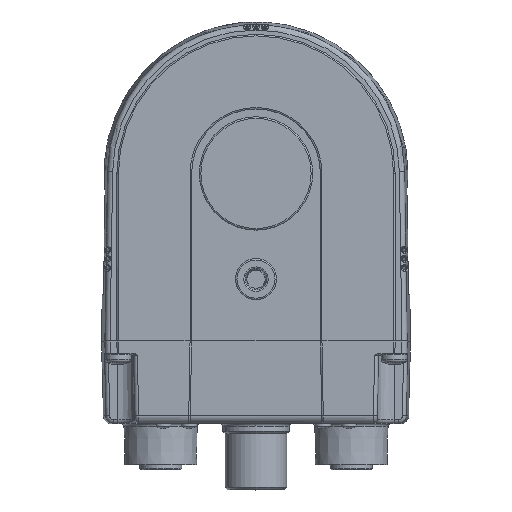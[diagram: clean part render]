
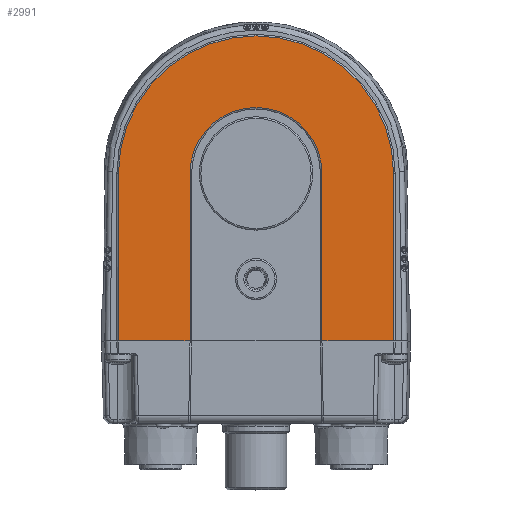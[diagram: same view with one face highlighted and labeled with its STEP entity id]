
A CAD part, top view. The second image highlights one B-rep face of the part: STEP entity #2991.
In plain terms, the highlighted planar face has unit normal (0, 0, 1).
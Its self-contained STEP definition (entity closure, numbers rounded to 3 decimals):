
#2991 = ADVANCED_FACE( '', ( #6500 ), #6501, .T. );
#6500 = FACE_OUTER_BOUND( '', #14952, .T. );
#6501 = PLANE( '', #14953 );
#14952 = EDGE_LOOP( '', ( #25296, #25297, #25298, #25299, #25300, #25301, #25302, #25303 ) );
#14953 = AXIS2_PLACEMENT_3D( '', #25304, #25305, #25306 );
#25296 = ORIENTED_EDGE( '', *, *, #28639, .T. );
#25297 = ORIENTED_EDGE( '', *, *, #31310, .T. );
#25298 = ORIENTED_EDGE( '', *, *, #30432, .T. );
#25299 = ORIENTED_EDGE( '', *, *, #30569, .T. );
#25300 = ORIENTED_EDGE( '', *, *, #30338, .T. );
#25301 = ORIENTED_EDGE( '', *, *, #31032, .T. );
#25302 = ORIENTED_EDGE( '', *, *, #30148, .T. );
#25303 = ORIENTED_EDGE( '', *, *, #31509, .T. );
#25304 = CARTESIAN_POINT( '', ( 0., 0., 50.4 ) );
#25305 = DIRECTION( '', ( 0., 0., 1. ) );
#25306 = DIRECTION( '', ( 1., 0., 0. ) );
#28639 = EDGE_CURVE( '', #33244, #33249, #33251, .T. );
#30148 = EDGE_CURVE( '', #35639, #33896, #35640, .T. );
#30338 = EDGE_CURVE( '', #35912, #35917, #35919, .T. );
#30432 = EDGE_CURVE( '', #36053, #36054, #36055, .T. );
#30569 = EDGE_CURVE( '', #36054, #35912, #36237, .T. );
#31032 = EDGE_CURVE( '', #35917, #35639, #36854, .T. );
#31310 = EDGE_CURVE( '', #33249, #36053, #37214, .T. );
#31509 = EDGE_CURVE( '', #33896, #33244, #37442, .T. );
#33244 = VERTEX_POINT( '', #39834 );
#33249 = VERTEX_POINT( '', #39839 );
#33251 = CIRCLE( '', #39841, 12.8 );
#33896 = VERTEX_POINT( '', #41215 );
#35639 = VERTEX_POINT( '', #44762 );
#35640 = LINE( '', #44763, #44764 );
#35912 = VERTEX_POINT( '', #45365 );
#35917 = VERTEX_POINT( '', #45370 );
#35919 = CIRCLE( '', #45372, 26.7 );
#36053 = VERTEX_POINT( '', #45609 );
#36054 = VERTEX_POINT( '', #45610 );
#36055 = LINE( '', #45611, #45612 );
#36237 = LINE( '', #45942, #45943 );
#36854 = LINE( '', #47347, #47348 );
#37214 = LINE( '', #48281, #48282 );
#37442 = LINE( '', #48803, #48804 );
#39834 = CARTESIAN_POINT( '', ( -12.8, 0., 50.4 ) );
#39839 = CARTESIAN_POINT( '', ( 12.8, 0., 50.4 ) );
#39841 = AXIS2_PLACEMENT_3D( '', #50729, #50730, #50731 );
#41215 = CARTESIAN_POINT( '', ( -12.8, -32.5, 50.4 ) );
#44762 = CARTESIAN_POINT( '', ( -26.7, -32.5, 50.4 ) );
#44763 = CARTESIAN_POINT( '', ( -27., -32.5, 50.4 ) );
#44764 = VECTOR( '', #52501, 1000. );
#45365 = CARTESIAN_POINT( '', ( 26.7, 0., 50.4 ) );
#45370 = CARTESIAN_POINT( '', ( -26.7, 0., 50.4 ) );
#45372 = AXIS2_PLACEMENT_3D( '', #52704, #52705, #52706 );
#45609 = CARTESIAN_POINT( '', ( 12.8, -32.5, 50.4 ) );
#45610 = CARTESIAN_POINT( '', ( 26.7, -32.5, 50.4 ) );
#45611 = CARTESIAN_POINT( '', ( 12.5, -32.5, 50.4 ) );
#45612 = VECTOR( '', #52791, 1000. );
#45942 = CARTESIAN_POINT( '', ( 26.7, 0., 50.4 ) );
#45943 = VECTOR( '', #52956, 1000. );
#47347 = CARTESIAN_POINT( '', ( -26.7, -32.5, 50.4 ) );
#47348 = VECTOR( '', #53423, 1000. );
#48281 = CARTESIAN_POINT( '', ( 12.8, -32.5, 50.4 ) );
#48282 = VECTOR( '', #53685, 1000. );
#48803 = CARTESIAN_POINT( '', ( -12.8, 0., 50.4 ) );
#48804 = VECTOR( '', #53848, 1000. );
#50729 = CARTESIAN_POINT( '', ( 0., 0., 50.4 ) );
#50730 = DIRECTION( '', ( 0., 0., -1. ) );
#50731 = DIRECTION( '', ( 1., 0., 0. ) );
#52501 = DIRECTION( '', ( 1., 0., 0. ) );
#52704 = CARTESIAN_POINT( '', ( 0., 0., 50.4 ) );
#52705 = DIRECTION( '', ( 0., 0., 1. ) );
#52706 = DIRECTION( '', ( 1., 0., 0. ) );
#52791 = DIRECTION( '', ( 1., 0., 0. ) );
#52956 = DIRECTION( '', ( 0., 1., 0. ) );
#53423 = DIRECTION( '', ( 0., -1., 0. ) );
#53685 = DIRECTION( '', ( 0., -1., 0. ) );
#53848 = DIRECTION( '', ( 0., 1., 0. ) );
